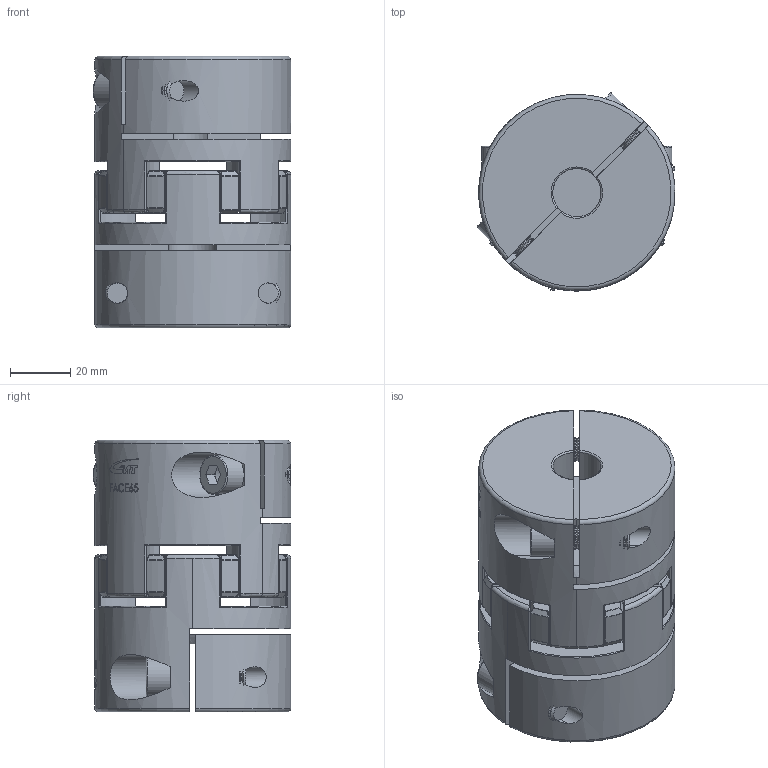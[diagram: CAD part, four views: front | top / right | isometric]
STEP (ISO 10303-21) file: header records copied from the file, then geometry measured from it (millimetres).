
FILE_DESCRIPTION (( 'STEP AP203' ), '1' );
FILE_NAME ('FACE65B-16x16.STEP', '2014-12-01T08:28:24', ( '123' ), ( '' ), 'SwSTEP 2.0', 'SolidWorks 2014', '' );
FILE_SCHEMA (( 'CONFIG_CONTROL_DESIGN' ));
Length unit declared in the file: millimetre
Products named in the file (1): FACE65B-16x16
Bounding box: 65.57 x 65.57 x 90 mm (x, y, z)
Surface area: 56503.9 mm2 (no closed solid volume)
Topology: 0 solids, 21 shells, 598 faces, 2252 edges, 1603 vertices
Faces by surface type: cylinder 176, torus 126, cone 114, plane 86, bspline 74, sphere 22
Entity records: 33251 total; most frequent: CARTESIAN_POINT 15274, DIRECTION 3776, ORIENTED_EDGE 3370, EDGE_CURVE 2244, AXIS2_PLACEMENT_3D 1639, VERTEX_POINT 1603, CIRCLE 1114, EDGE_LOOP 677
